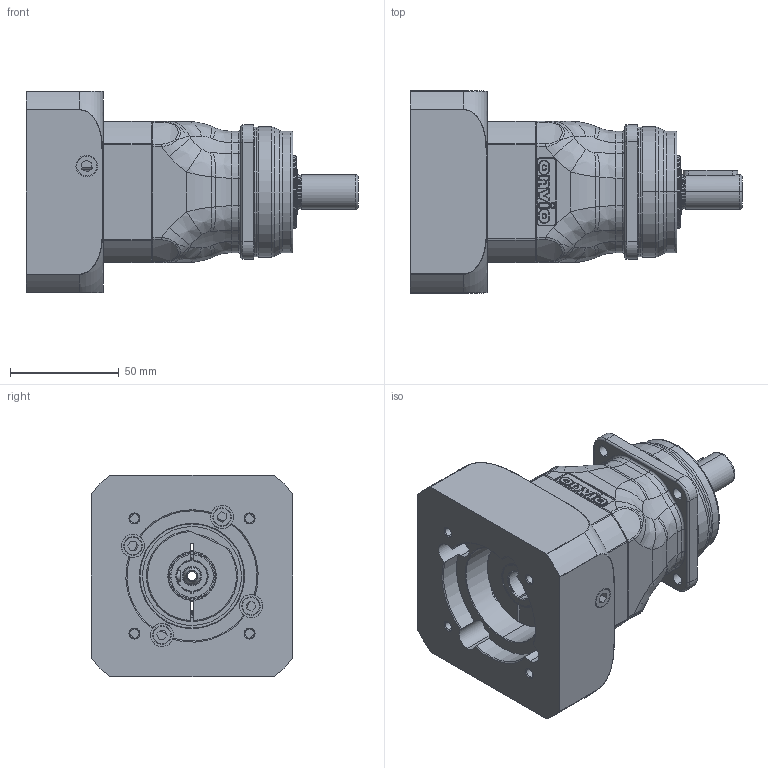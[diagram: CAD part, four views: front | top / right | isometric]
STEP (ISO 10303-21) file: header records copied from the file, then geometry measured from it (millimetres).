
FILE_DESCRIPTION (( 'STEP AP214' ), '1' );
FILE_NAME ('AH-010-0RR-FFF-MMM-S-LL-XXX-CXX-0000.STEP', '2019-10-11T20:25:38', ( '' ), ( '' ), 'SwSTEP 2.0', 'SolidWorks 2019', '' );
FILE_SCHEMA (( 'AUTOMOTIVE_DESIGN' ));
Length unit declared in the file: millimetre
Products named in the file (1): AH-010-0RR-FFF-MMM-S-LL-XXX-CXX-0000
Bounding box: 153 x 93 x 93 mm (x, y, z)
Surface area: 64707.9 mm2 (no closed solid volume)
Topology: 0 solids, 80 shells, 841 faces, 3555 edges, 2736 vertices
Faces by surface type: cylinder 295, plane 222, torus 161, bspline 91, cone 72
Entity records: 56379 total; most frequent: CARTESIAN_POINT 20377, DIRECTION 5026, ORIENTED_EDGE 5025, EDGE_CURVE 3543, VERTEX_POINT 2736, AXIS2_PLACEMENT_3D 1762, VECTOR 1502, LINE 1502
